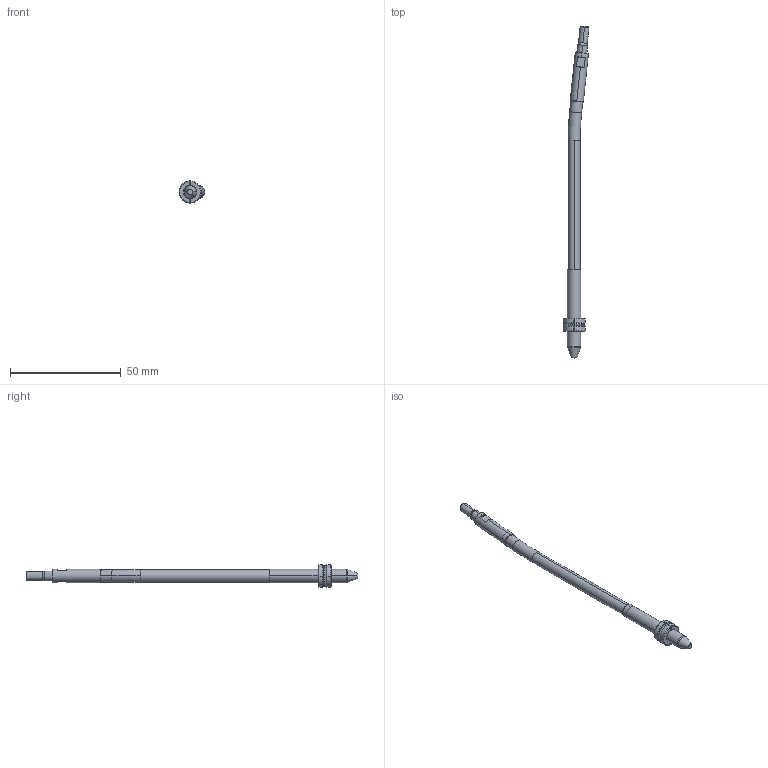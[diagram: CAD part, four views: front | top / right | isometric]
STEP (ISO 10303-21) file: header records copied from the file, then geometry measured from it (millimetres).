
FILE_DESCRIPTION (( 'STEP AP214' ), '1' );
FILE_NAME ('WP060060-OFF 6°.STEP', '2020-04-30T09:30:15', ( '' ), ( '' ), 'SwSTEP 2.0', 'SolidWorks 2019', '' );
FILE_SCHEMA (( 'AUTOMOTIVE_DESIGN' ));
Length unit declared in the file: millimetre
Products named in the file (6): WEB-001-9WP060030-1; WP060060-OFF 6°; WEB-008-JUNTA-JT7X1X9; WEB-006-9WP060030-6; WEB-007-9WP060060-F_WP060060-F-OFF 6ø; WEB-002-9WP060030-2
Assembly tree (5 placements, depth 2):
  WP060060-OFF 6°
    WEB-001-9WP060030-1
    WEB-007-9WP060060-F_WP060060-F-OFF 6ø
    WEB-002-9WP060030-2
    WEB-006-9WP060030-6
    WEB-008-JUNTA-JT7X1X9
Bounding box: 11.69 x 149.74 x 9.99 mm (x, y, z)
Volume: 3873.8 mm3; surface area: 3434.3 mm2
Topology: 6 solids, 6 shells, 112 faces, 262 edges, 164 vertices
Faces by surface type: cylinder 36, cone 28, plane 28, torus 20
Entity records: 3723 total; most frequent: CARTESIAN_POINT 714, DIRECTION 598, ORIENTED_EDGE 524, EDGE_CURVE 262, AXIS2_PLACEMENT_3D 256, VERTEX_POINT 164, CIRCLE 136, EDGE_LOOP 116
